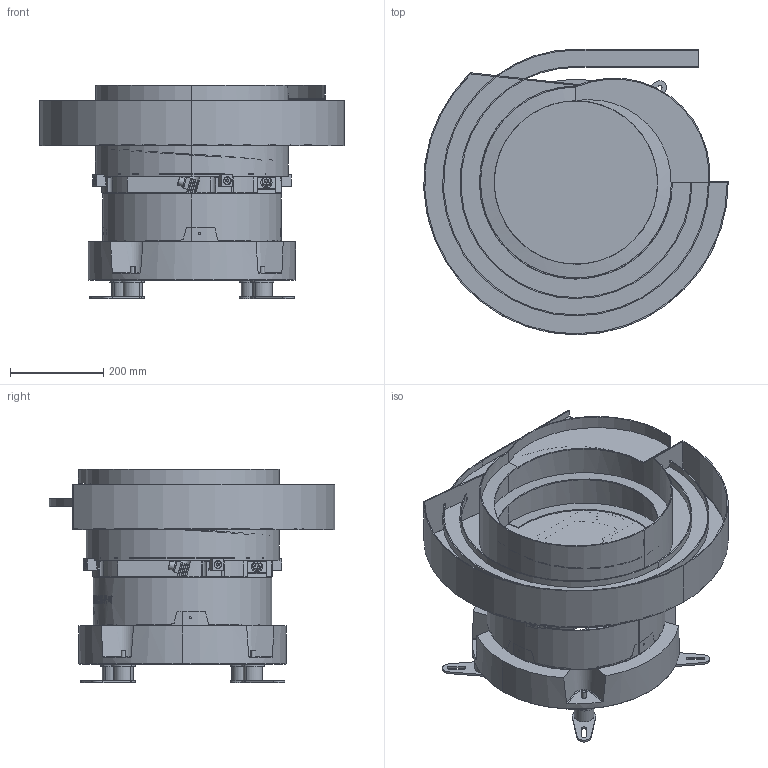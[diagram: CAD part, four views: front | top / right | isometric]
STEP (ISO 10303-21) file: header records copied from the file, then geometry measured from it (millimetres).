
FILE_DESCRIPTION (( 'STEP AP203' ), '1' );
FILE_NAME ('CA-390佼奀渀.STEP', '2024-09-14T13:40:18', ( '' ), ( '' ), 'SwSTEP 2.0', 'SolidWorks 2021', '' );
FILE_SCHEMA (( 'CONFIG_CONTROL_DESIGN' ));
Length unit declared in the file: millimetre
Products named in the file (14): ________.STEP; hexagon socket head cap screws gb_GB_FASTENER_SCREWS_HSHCS M10X16-N.STEP; CA390-005-R.STEP; _________CA390.STEP; hexagon socket head cap screws gb_GB_FASTENER_SCREWS_HSHCS M12X50-N.STEP; _____________CA390-T1.STEP; CA-390佼奀渀; 峓啣; _____________CA390.STEP; CA-390佼奀渀.STEP; plain washers--product grade c gb_GB_FASTENER_WASHER_SMWC 12.STEP; SN30_SN50.STEP; 400__________.STEP; CA230-002-R_CA390-002-R.STEP
Assembly tree (94 placements, depth 3):
  CA-390佼奀渀
    CA-390佼奀渀.STEP
      CA230-002-R_CA390-002-R.STEP
      SN30_SN50.STEP  x4
      CA390-005-R.STEP
      ________.STEP  x4
      _________CA390.STEP  x20
      _____________CA390-T1.STEP  x33
      _____________CA390.STEP  x8
      hexagon socket head cap screws gb_GB_FASTENER_SCREWS_HSHCS M12X50-N.STEP  x8
      plain washers--product grade c gb_GB_FASTENER_WASHER_SMWC 12.STEP  x8
      hexagon socket head cap screws gb_GB_FASTENER_SCREWS_HSHCS M10X16-N.STEP  x4
      400__________.STEP
    峓啣
Bounding box: 654.08 x 613.75 x 458.2 mm (x, y, z)
Volume: 15908416.3 mm3; surface area: 3260400.3 mm2
Topology: 96 solids, 96 shells, 2304 faces, 5832 edges, 3798 vertices
Faces by surface type: plane 1012, bspline 602, cylinder 594, cone 96
Entity records: 139815 total; most frequent: CARTESIAN_POINT 105581, ORIENTED_EDGE 7476, DIRECTION 4448, EDGE_CURVE 3738, VERTEX_POINT 2480, B_SPLINE_CURVE_WITH_KNOTS 1875, AXIS2_PLACEMENT_3D 1712, EDGE_LOOP 1562
